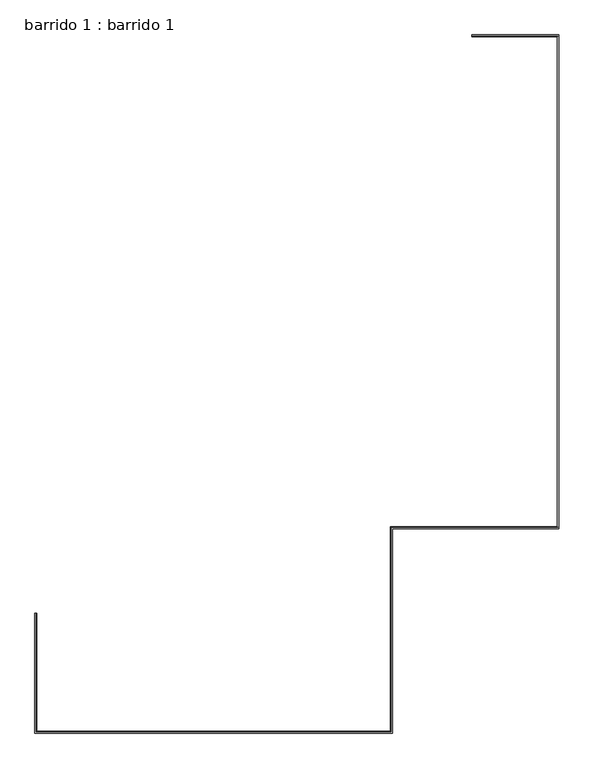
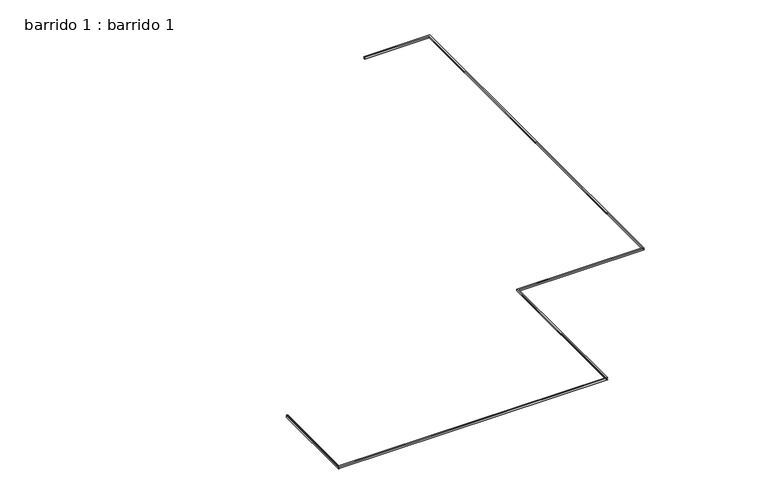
"""IFC4 building model written with IfcOpenShell, lengths in millimetres: proxy geometry, barrido 1 : barrido 1."""

from ifc_helpers import new_model, si_unit, frame, origin, place, context, project, spatial, polyline, circle_curve, ellipse_curve, source, transform, mapped, element, save
from ifc_brep_helpers import plane_surface, revolved_surface, advanced_brep


def barrido_1_barrido_1_4d5a64a3(model_context):
    return source(origin(), model_context, "Body", "AdvancedBrep", [
        advanced_brep(
        [(-2323.1025942, -10342.6669037, 2700.0), (-2323.1025942, -10342.6669037, 2660.0), (-2353.1025942, -10342.6669037, 2660.0), (-2353.1025942, -10342.6669037, 2700.0), (-2323.1025942, -12362.6669037, 2700.0), (-2323.1025942, -12362.6669037, 2660.0), (3738.9398199, -12362.6669037, 2660.0), (3738.9398199, -8862.6669037, 2660.0), (6591.690629, -8862.6669037, 2660.0), (6591.690629, -473.1853621, 2660.0), (5128.0106138, -473.1853621, 2660.0), (5128.0106138, -443.1853621, 2660.0), (6621.690629, -443.1853621, 2660.0), (6621.690629, -8892.6669037, 2660.0), (3768.9398199, -8892.6669037, 2660.0), (3768.9398199, -12392.6669037, 2660.0), (-2353.1025942, -12392.6669037, 2660.0), (-2353.1025942, -12392.6669037, 2700.0), (3768.9398199, -12392.6669037, 2700.0), (3768.9398199, -8892.6669037, 2700.0), (6621.690629, -8892.6669037, 2700.0), (6621.690629, -443.1853621, 2700.0), (5128.0106138, -443.1853621, 2700.0), (5128.0106138, -473.1853621, 2700.0), (6591.690629, -473.1853621, 2700.0), (6591.690629, -8862.6669037, 2700.0), (3738.9398199, -8862.6669037, 2700.0), (3738.9398199, -12362.6669037, 2700.0)],
        [
            (0, 1),
            (1, 2),
            (2, 3, circle_curve(frame((-2353.1025942, -10342.6669037, 2680.0), z_axis=(0.0, -1.0, 0.0), x_axis=(-1.0, 0.0, 0.0)), 20.0)),
            (3, 0),
            (0, 4),
            (4, 5),
            (5, 1),
            (5, 6),
            (6, 7),
            (7, 8),
            (8, 9),
            (9, 10),
            (10, 11),
            (11, 12),
            (12, 13),
            (13, 14),
            (14, 15),
            (15, 16),
            (16, 2),
            (16, 17, ellipse_curve(frame((-2353.1025942, -12392.6669037, 2680.0), z_axis=(0.7071067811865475, -0.7071067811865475, 0.0), x_axis=(-0.7071067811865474, -0.7071067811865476, 0.0)), 28.2842712, 20.0)),
            (17, 3),
            (17, 18),
            (18, 19),
            (19, 20),
            (20, 21),
            (21, 22),
            (22, 23),
            (23, 24),
            (24, 25),
            (25, 26),
            (26, 27),
            (27, 4),
            (27, 6),
            (15, 18, ellipse_curve(frame((3768.9398199, -12392.6669037, 2680.0), z_axis=(0.7071067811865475, 0.7071067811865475, 0.0), x_axis=(0.7071067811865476, -0.7071067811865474, 0.0)), 28.2842712, 20.0)),
            (26, 7),
            (14, 19, ellipse_curve(frame((3768.9398199, -8892.6669037, 2680.0), z_axis=(0.7071067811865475, 0.7071067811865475, 0.0), x_axis=(-0.7071067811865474, 0.7071067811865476, 0.0)), 28.2842712, 20.0)),
            (25, 8),
            (13, 20, ellipse_curve(frame((6621.690629, -8892.6669037, 2680.0), z_axis=(0.7071067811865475, 0.7071067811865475, 0.0), x_axis=(0.7071067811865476, -0.7071067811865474, 0.0)), 28.2842712, 20.0)),
            (24, 9),
            (12, 21, ellipse_curve(frame((6621.690629, -443.1853621, 2680.0), z_axis=(-0.7071067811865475, 0.7071067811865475, 0.0), x_axis=(0.7071067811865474, 0.7071067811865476, 0.0)), 28.2842712, 20.0)),
            (22, 11, circle_curve(frame((5128.0106138, -443.1853621, 2680.0), z_axis=(1.0, 0.0, 0.0), x_axis=(0.0, 1.0, 0.0)), 20.0)),
            (10, 23),
        ],
        [
            plane_surface(frame((-2353.1025942, -10342.6669037, 2700.0), z_axis=(0.0, 1.0, 0.0), x_axis=(0.0, 0.0, -1.0))),
            plane_surface(frame((-2323.1025942, -10342.6669037, 2700.0), z_axis=(1.0, 0.0, 0.0), x_axis=(0.0, -1.0, 0.0))),
            plane_surface(frame((-2323.1025942, -10342.6669037, 2660.0), z_axis=(0.0, 0.0, -1.0), x_axis=(0.0, -1.0, 0.0))),
            revolved_surface(polyline([(-2373.1025942, -12412.666903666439, 2680.0), (-2373.1025942, -10342.6669037, 2680.0)]), (-2353.1025942, -10342.6669037, 2680.0), (0.0, -1.0, 0.0)),
            plane_surface(frame((-2353.1025942, -10342.6669037, 2700.0), z_axis=(0.0, 0.0, 1.0), x_axis=(0.0, -1.0, 0.0))),
            plane_surface(frame((-2323.1025942, -12362.6669037, 2700.0), z_axis=(0.0, 1.0, 0.0), x_axis=(1.0, 0.0, 0.0))),
            revolved_surface(polyline([(3788.93981986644, -12412.6669037, 2680.0), (-2373.1025941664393, -12412.6669037, 2680.0)]), (-2353.1025942, -12392.6669037, 2680.0), (1.0, 0.0, 0.0)),
            plane_surface(frame((3738.9398199, -12362.6669037, 2700.0), z_axis=(-1.0, 0.0, 0.0), x_axis=(0.0, 1.0, 0.0))),
            revolved_surface(polyline([(3788.9398199, -8872.66690373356, 2680.0), (3788.9398199, -12412.666903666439, 2680.0)]), (3768.9398199, -12392.6669037, 2680.0), (0.0, 1.0, 0.0)),
            plane_surface(frame((3738.9398199, -8862.6669037, 2700.0), z_axis=(0.0, 1.0, 0.0), x_axis=(1.0, 0.0, 0.0))),
            revolved_surface(polyline([(6641.690628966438, -8912.6669037, 2680.0), (3748.939819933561, -8912.6669037, 2680.0)]), (3768.9398199, -8892.6669037, 2680.0), (1.0, 0.0, 0.0)),
            plane_surface(frame((6591.690629, -8862.6669037, 2700.0), z_axis=(-1.0, 0.0, 0.0), x_axis=(0.0, 1.0, 0.0))),
            revolved_surface(polyline([(6641.690629, -423.1853621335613, 2680.0), (6641.690629, -8912.666903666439, 2680.0)]), (6621.690629, -8892.6669037, 2680.0), (0.0, 1.0, 0.0)),
            plane_surface(frame((5128.0106138, -443.1853621, 2700.0), z_axis=(-1.0, 0.0, 0.0), x_axis=(0.0, 0.0, -1.0))),
            plane_surface(frame((6591.690629, -473.1853621, 2700.0), z_axis=(0.0, -1.0, 0.0), x_axis=(-1.0, 0.0, 0.0))),
            revolved_surface(polyline([(5128.0106138, -423.1853621, 2680.0), (6641.690628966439, -423.1853621, 2680.0)]), (6621.690629, -443.1853621, 2680.0), (-1.0, 0.0, 0.0)),
        ],
        [
            (0, [[1, 2, 3, 4]]),
            (1, [[-1, 5, 6, 7]]),
            (2, [[-2, -7, 8, 9, 10, 11, 12, 13, 14, 15, 16, 17, 18, 19]]),
            (3, [[-3, -19, 20, 21]]),
            (4, [[-4, -21, 22, 23, 24, 25, 26, 27, 28, 29, 30, 31, 32, -5]]),
            (5, [[-6, -32, 33, -8]]),
            (6, [[-20, -18, 34, -22]]),
            (7, [[-33, -31, 35, -9]]),
            (8, [[-34, -17, 36, -23]]),
            (9, [[-35, -30, 37, -10]]),
            (10, [[-36, -16, 38, -24]]),
            (11, [[-37, -29, 39, -11]]),
            (12, [[-38, -15, 40, -25]]),
            (13, [[-27, 41, -13, 42]]),
            (14, [[-39, -28, -42, -12]]),
            (15, [[-40, -14, -41, -26]]),
        ],
    ),
    ])


if __name__ == "__main__":
    model = new_model("IFC4")
    model_context = context("Model", 3, world=origin())
    ifc_project = project(units=[si_unit("LENGTHUNIT", "METRE", prefix="MILLI")], contexts=[model_context])
    site = spatial("IfcSite", under=ifc_project)
    building = spatial("IfcBuilding", under=site)
    placement = place(None, origin())
    barrido_1_barrido_1_shape = barrido_1_barrido_1_4d5a64a3(model_context)
    element("IfcBuildingElementProxy", 1, Name="barrido 1 : barrido 1", ObjectType="barrido 1 : barrido 1", at=placement, inside=building, context=model_context, shape_type="MappedRepresentation", body=[
        mapped(barrido_1_barrido_1_shape, transform((0.0, 0.0, 0.0), x_axis=(1.0, 0.0, 0.0), y_axis=(0.0, 1.0, 0.0), z_axis=(0.0, 0.0, 1.0))),
    ])
    save(model, "model.ifc")
